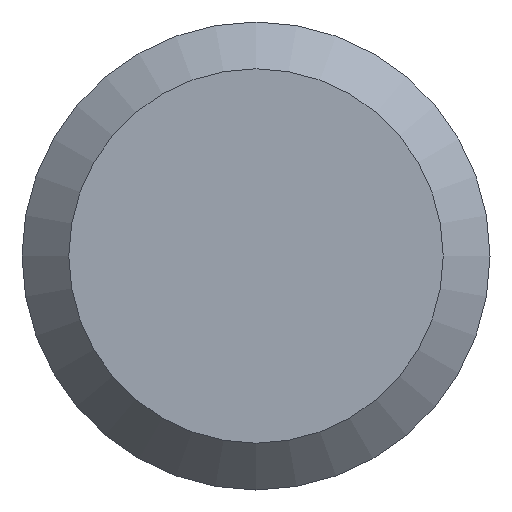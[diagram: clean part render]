
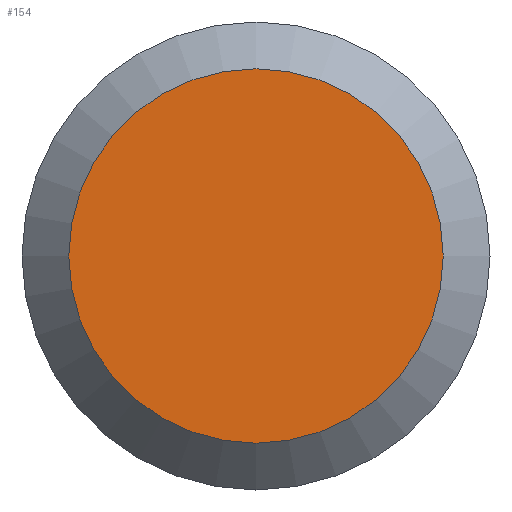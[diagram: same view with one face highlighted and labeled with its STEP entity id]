
A CAD part, left-side view. The second image highlights one B-rep face of the part: STEP entity #154.
In plain terms, the highlighted planar face has unit normal (-1, 0, 0).
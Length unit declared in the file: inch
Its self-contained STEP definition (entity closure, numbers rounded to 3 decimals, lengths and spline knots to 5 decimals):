
#8 = VERTEX_POINT ( 'NONE', #222 ) ;
#50 = EDGE_LOOP ( 'NONE', ( #192 ) ) ;
#78 = DIRECTION ( 'NONE',  ( -1., 0., 0. ) ) ;
#83 = AXIS2_PLACEMENT_3D ( 'NONE', #116, #175, #236 ) ;
#89 = EDGE_CURVE ( 'NONE', #8, #8, #205, .T. ) ;
#116 = CARTESIAN_POINT ( 'NONE',  ( 0., 0.0205, 0. ) ) ;
#135 = FACE_OUTER_BOUND ( 'NONE', #50, .T. ) ;
#148 = PLANE ( 'NONE',  #83 ) ;
#154 = ADVANCED_FACE ( 'NONE', ( #135 ), #148, .F. ) ;
#175 = DIRECTION ( 'NONE',  ( 1., 0., 0. ) ) ;
#192 = ORIENTED_EDGE ( 'NONE', *, *, #89, .T. ) ;
#205 = CIRCLE ( 'NONE', #245, 0.0164 ) ;
#206 = CARTESIAN_POINT ( 'NONE',  ( 0., 0., 0. ) ) ;
#222 = CARTESIAN_POINT ( 'NONE',  ( 0., 0., -0.0164 ) ) ;
#236 = DIRECTION ( 'NONE',  ( 0., 0., -1. ) ) ;
#237 = DIRECTION ( 'NONE',  ( 0., 0., -1. ) ) ;
#245 = AXIS2_PLACEMENT_3D ( 'NONE', #206, #78, #237 ) ;
